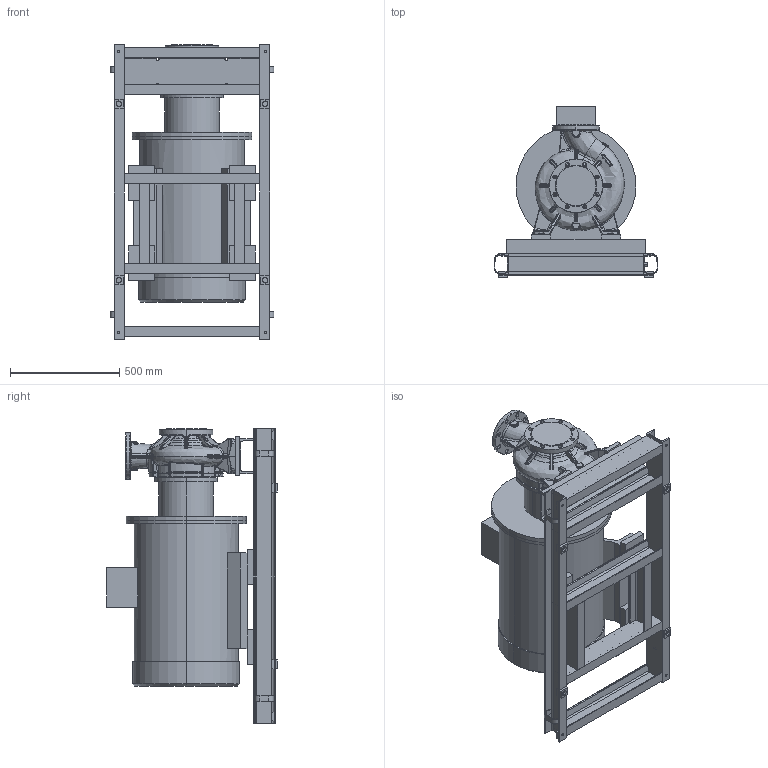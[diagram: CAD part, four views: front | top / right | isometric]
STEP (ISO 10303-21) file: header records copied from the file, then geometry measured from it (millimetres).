
FILE_DESCRIPTION (( 'STEP AP203' ), '1' );
FILE_NAME ('KRM 125-100-250-2-75.STEP', '2026-08-18T05:39:21', ( '' ), ( '' ), 'SwSTEP 2.0', 'SolidWorks 2016', '' );
FILE_SCHEMA (( 'CONFIG_CONTROL_DESIGN' ));
Products named in the file (1): KRM 125-100-250-2-75
Bounding box: 751.91 x 784 x 1350 mm (x, y, z)
Volume: 193888489.9 mm3; surface area: 6881191.1 mm2
Topology: 37 solids, 37 shells, 1565 faces, 3851 edges, 2346 vertices
Faces by surface type: bspline 493, plane 438, cylinder 395, torus 123, cone 85, sphere 31
Entity records: 97468 total; most frequent: CARTESIAN_POINT 64064, ORIENTED_EDGE 7636, DIRECTION 6083, EDGE_CURVE 3818, AXIS2_PLACEMENT_3D 2396, VERTEX_POINT 2346, EDGE_LOOP 1682, ADVANCED_FACE 1565
